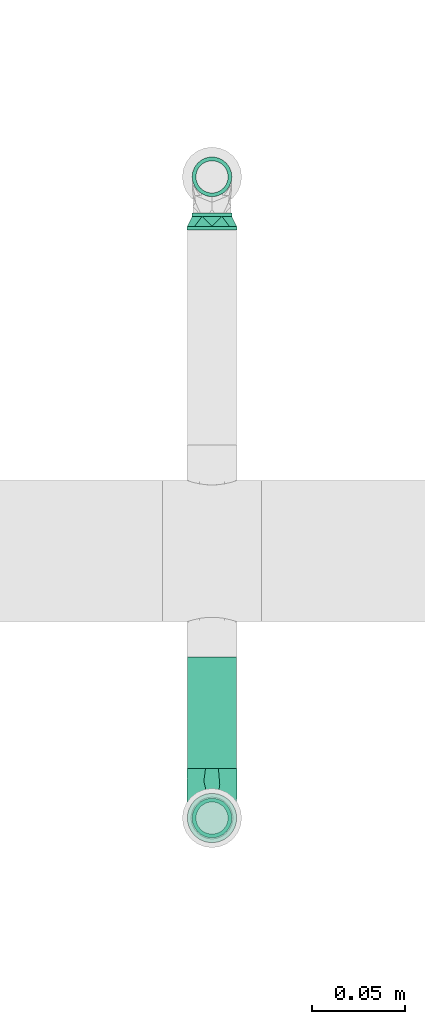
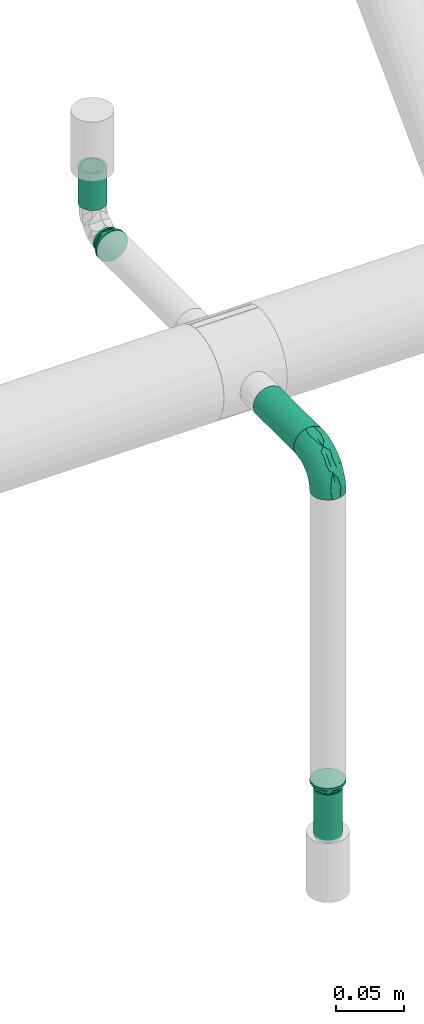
# One storey, part 26 of 51: 3 flow fittings, 3 flow segments.
"""IFC2X3 building model written with IfcOpenShell, lengths in millimetres."""

from ifc_helpers import new_model, entity, si_unit, converted_unit, derived_unit, direction, frame, origin_with_axes, origin_2d_with_axis, place, context, subcontext, project, spatial, hollow_circle, extrude, open_shell, surface_model, source, transform, mapped, type_object, element, save


model = new_model("IFC2X3")

# Units and contexts
model_context = context("Model", 3, precision=0.01, world=frame((0.0, 4.29681676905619e-09, 0.0)), true_north=direction((4.01073788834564e-13, 1.0)))
plan_context = context("Plan", 3, precision=0.01, world=frame((0.0, 4.29681676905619e-09, 0.0)), true_north=direction((4.01073788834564e-13, 1.0)))
body_context = subcontext(model_context, "Body", "Model", "MODEL_VIEW")
ifc_project = project(units=[converted_unit("PLANEANGLEUNIT", "DEGREE", entity("IfcPositiveLengthMeasure", 0.0174532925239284), si_unit("PLANEANGLEUNIT", "RADIAN"), dimensions=[0, 0, 0, 0, 0, 0, 0]), si_unit("AREAUNIT", "SQUARE_METRE"), si_unit("LENGTHUNIT", "METRE", prefix="MILLI"), si_unit("MASSUNIT", "GRAM", prefix="KILO"), si_unit("POWERUNIT", "WATT"), si_unit("PRESSUREUNIT", "PASCAL"), si_unit("FORCEUNIT", "NEWTON", prefix="KILO"), si_unit("ELECTRICVOLTAGEUNIT", "VOLT"), si_unit("ELECTRICCURRENTUNIT", "AMPERE"), si_unit("THERMODYNAMICTEMPERATUREUNIT", "DEGREE_CELSIUS"), si_unit("TIMEUNIT", "SECOND"), si_unit("VOLUMEUNIT", "CUBIC_METRE"), derived_unit("LINEARVELOCITYUNIT", [(si_unit("LENGTHUNIT", "METRE"), 1), (si_unit("TIMEUNIT", "SECOND"), -1)]), derived_unit("VOLUMETRICFLOWRATEUNIT", [(si_unit("VOLUMEUNIT", "CUBIC_METRE"), 1), (si_unit("TIMEUNIT", "SECOND"), -1)]), derived_unit("THERMALTRANSMITTANCEUNIT", [(si_unit("POWERUNIT", "WATT"), 1), (si_unit("THERMODYNAMICTEMPERATUREUNIT", "KELVIN"), -1), (si_unit("AREAUNIT", "SQUARE_METRE"), -1)]), derived_unit("SOUNDPRESSUREUNIT", [(si_unit("PRESSUREUNIT", "PASCAL"), 1)])], contexts=[model_context, plan_context])

# Site, building, storey
site_placement = place(None, frame((0.0, -4.29681676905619e-09, 0.0), z_axis=(0.0, 0.0, 1.0), x_axis=(1.0, 0.0, 0.0)))
site = spatial("IfcSite", under=ifc_project, at=site_placement, Name="ENGM", CompositionType="ELEMENT")
building_placement = place(site_placement, frame((0.0, 4.29681676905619e-09, 0.0), z_axis=(0.0, 0.0, 1.0), x_axis=(1.0, 0.0, 0.0)))
building = spatial("IfcBuilding", under=site, at=building_placement, Name="TH", CompositionType="ELEMENT")
storey_placement = place(building_placement, frame((0.0, 0.0, 210200.0), z_axis=(0.0, 0.0, 1.0), x_axis=(1.0, 0.0, 0.0)))
storey = spatial("IfcBuildingStorey", under=building, at=storey_placement, Name="Nivå F - 0,7 m", CompositionType="ELEMENT", Elevation=210200.0)

# Flow fittings
pipe_fitting_type_1 = type_object("IfcPipeFittingType", Name="magi_pipe_fe_reducer_centric_short_NOR", PredefinedType="TRANSITION")
shared_shape_1 = source(origin_with_axes(), body_context, "Body", "SurfaceModel", [
    surface_model("IfcShellBasedSurfaceModel", [(-2.0, -7.56604, -7.56604), (-2.0, -10.33541, -2.76936), (-2.0, -5.35, -9.26647), (0.0, -10.7, 0.0), (0.0, -5.35, 9.26647), (0.0, -5.35, -9.26647), (-2.0, -2.76936, 10.33541), (-2.0, 0.0, 10.7), (-2.0, -10.33541, 2.76936), (-2.0, -5.35, 9.26647), (-2.0, -7.56604, 7.56604), (-2.0, -9.26647, 5.35), (-2.0, 9.26647, 5.35), (-2.0, 5.35, 9.26647), (-2.0, 7.56604, 7.56604), (-2.0, 2.76936, 10.33541), (-2.0, 10.7, 0.0), (-2.0, 10.33541, -2.76936), (-2.0, 10.33541, 2.76936), (-2.0, -9.26647, -5.35), (-2.0, 5.35, -9.26647), (-2.0, -2.76936, -10.33541), (-2.0, 9.26647, -5.35), (-2.0, 7.56604, -7.56604), (-2.0, 2.76936, -10.33541), (-2.0, 0.0, -10.7), (-2.0, -10.7, 0.0), (0.0, -2.76936, -10.33541), (0.0, 0.0, -10.7), (0.0, -7.56604, -7.56604), (0.0, -10.33541, -2.76936), (0.0, 10.33541, -2.76936), (0.0, -9.26647, -5.35), (0.0, 9.26647, 5.35), (0.0, 2.76936, -10.33541), (0.0, 5.35, -9.26647), (0.0, 9.26647, -5.35), (0.0, 7.56604, -7.56604), (0.0, -10.33541, 2.76936), (0.0, -7.56604, 7.56604), (0.0, -9.26647, 5.35), (0.0, 0.0, 10.7), (0.0, -2.76936, 10.33541), (0.0, 10.7, 0.0), (0.0, 10.33541, 2.76936), (0.0, 5.35, 9.26647), (0.0, 2.76936, 10.33541), (0.0, 7.56604, 7.56604), (7.4, -6.7, -11.60474), (7.4, -3.46818, -12.94341), (7.4, -13.4, 0.0), (7.4, -9.47523, -9.47523), (7.4, -12.94341, -3.46818), (7.4, -11.60474, -6.7), (7.4, 12.94341, -3.46818), (7.4, 3.46818, -12.94341), (7.4, 6.7, -11.60474), (7.4, 0.0, -13.4), (7.4, 11.60474, -6.7), (7.4, 9.47523, -9.47523), (7.4, -12.94341, 3.46818), (7.4, -9.47523, 9.47523), (7.4, -11.60474, 6.7), (7.4, 0.0, 13.4), (7.4, -3.46818, 12.94341), (7.4, -6.7, 11.60474), (7.4, 6.7, 11.60474), (7.4, 11.60474, 6.7), (7.4, 9.47523, 9.47523), (7.4, 12.94341, 3.46818), (7.4, 13.4, 0.0), (7.4, 3.46818, 12.94341), (5.4, -6.7, 11.60474), (5.4, -3.46818, 12.94341), (5.4, 0.0, 13.4), (5.4, 3.46818, 12.94341), (5.4, -12.94341, 3.46818), (5.4, -11.60474, 6.7), (5.4, -9.47523, 9.47523), (5.4, 12.94341, 3.46818), (5.4, 6.7, 11.60474), (5.4, 9.47523, 9.47523), (5.4, 11.60474, 6.7), (5.4, 13.4, 0.0), (5.4, 6.7, -11.60474), (5.4, -9.47523, -9.47523), (5.4, -12.94341, -3.46818), (5.4, -11.60474, -6.7), (5.4, -6.7, -11.60474), (5.4, -3.46818, -12.94341), (5.4, 11.60474, -6.7), (5.4, 9.47523, -9.47523), (5.4, 12.94341, -3.46818), (5.4, 3.46818, -12.94341), (5.4, 0.0, -13.4), (5.4, -13.4, 0.0)], [open_shell([[[0, 1, 2]], [[3, 4, 5]], [[6, 7, 8]], [[9, 6, 10]], [[8, 11, 10]], [[6, 8, 10]], [[12, 8, 7]], [[13, 14, 15]], [[12, 15, 14]], [[16, 17, 18]], [[7, 15, 12]], [[17, 12, 18]], [[1, 8, 12]], [[1, 12, 17]], [[19, 1, 0]], [[17, 2, 1]], [[2, 20, 21]], [[22, 23, 17]], [[20, 17, 23]], [[24, 25, 20]], [[2, 17, 20]], [[20, 25, 21]], [[26, 8, 1]], [[27, 28, 5]], [[29, 5, 30]], [[30, 5, 31]], [[32, 29, 30]], [[30, 31, 33]], [[34, 35, 28]], [[35, 5, 28]], [[36, 31, 37]], [[35, 37, 31]], [[35, 31, 5]], [[38, 3, 30]], [[39, 40, 38]], [[33, 39, 30]], [[39, 41, 42]], [[4, 39, 42]], [[41, 39, 33]], [[43, 44, 31]], [[31, 44, 33]], [[45, 46, 47]], [[33, 47, 46]], [[33, 46, 41]], [[39, 38, 30]], [[16, 31, 17]], [[17, 36, 22]], [[20, 23, 35]], [[37, 23, 22]], [[24, 20, 34]], [[31, 36, 17]], [[16, 43, 31]], [[20, 35, 34]], [[35, 23, 37]], [[22, 36, 37]], [[24, 34, 28]], [[28, 25, 24]], [[25, 27, 21]], [[21, 5, 2]], [[19, 0, 32]], [[29, 0, 2]], [[1, 19, 30]], [[5, 29, 2]], [[21, 27, 5]], [[1, 30, 3]], [[30, 19, 32]], [[0, 29, 32]], [[1, 3, 26]], [[28, 27, 25]], [[26, 38, 8]], [[8, 40, 11]], [[9, 10, 4]], [[39, 10, 11]], [[6, 9, 42]], [[38, 40, 8]], [[26, 3, 38]], [[9, 4, 42]], [[4, 10, 39]], [[11, 40, 39]], [[6, 42, 41]], [[41, 7, 6]], [[7, 46, 15]], [[15, 45, 13]], [[12, 14, 33]], [[47, 14, 13]], [[18, 12, 44]], [[45, 47, 13]], [[15, 46, 45]], [[18, 44, 43]], [[44, 12, 33]], [[14, 47, 33]], [[18, 43, 16]], [[41, 46, 7]], [[4, 45, 43]], [[35, 5, 43]], [[4, 43, 5]], [[48, 49, 50]], [[51, 48, 50]], [[51, 50, 52]], [[53, 51, 52]], [[54, 50, 49]], [[55, 56, 57]], [[56, 49, 57]], [[58, 54, 59]], [[56, 59, 54]], [[56, 54, 49]], [[54, 60, 50]], [[61, 62, 60]], [[63, 61, 60]], [[63, 64, 65]], [[61, 63, 65]], [[66, 63, 60]], [[67, 68, 69]], [[69, 54, 70]], [[68, 66, 69]], [[66, 60, 69]], [[63, 66, 71]], [[60, 54, 69]], [[72, 73, 74]], [[72, 74, 75]], [[76, 77, 78]], [[75, 78, 72]], [[78, 79, 76]], [[80, 81, 75]], [[79, 75, 81]], [[82, 79, 81]], [[79, 78, 75]], [[83, 84, 79]], [[84, 76, 79]], [[85, 86, 76]], [[87, 86, 85]], [[88, 76, 84]], [[76, 88, 85]], [[89, 88, 84]], [[90, 91, 92]], [[91, 83, 92]], [[93, 94, 84]], [[91, 84, 83]], [[84, 94, 89]], [[95, 76, 86]], [[83, 54, 92]], [[92, 58, 90]], [[84, 91, 56]], [[59, 91, 90]], [[93, 84, 55]], [[54, 58, 92]], [[83, 70, 54]], [[84, 56, 55]], [[56, 91, 59]], [[90, 58, 59]], [[93, 55, 57]], [[57, 94, 93]], [[94, 49, 89]], [[89, 48, 88]], [[87, 85, 53]], [[51, 85, 88]], [[86, 87, 52]], [[48, 51, 88]], [[89, 49, 48]], [[86, 52, 50]], [[52, 87, 53]], [[85, 51, 53]], [[86, 50, 95]], [[57, 49, 94]], [[95, 60, 76]], [[76, 62, 77]], [[72, 78, 65]], [[61, 78, 77]], [[73, 72, 64]], [[60, 62, 76]], [[95, 50, 60]], [[72, 65, 64]], [[65, 78, 61]], [[77, 62, 61]], [[73, 64, 63]], [[63, 74, 73]], [[74, 71, 75]], [[75, 66, 80]], [[82, 81, 67]], [[68, 81, 80]], [[79, 82, 69]], [[66, 68, 80]], [[75, 71, 66]], [[79, 69, 70]], [[69, 82, 67]], [[81, 68, 67]], [[79, 70, 83]], [[63, 71, 74]], [[91, 81, 74]], [[74, 78, 95]], [[83, 81, 91]], [[85, 94, 91]], [[91, 95, 85]], [[74, 95, 91]], [[91, 35, 43]], [[43, 83, 91]], [[91, 94, 35]], [[85, 3, 5]], [[5, 94, 85]], [[3, 85, 95]], [[35, 94, 5]], [[78, 4, 3]], [[3, 95, 78]], [[78, 74, 4]], [[81, 43, 45]], [[45, 74, 81]], [[43, 81, 83]], [[4, 74, 45]]])]),
])
flow_fitting_1_placement = place(storey_placement, frame((903080.0, 484510.06933, 2933.0), z_axis=(0.0, 0.0, 1.0), x_axis=(0.0, -1.0, 0.0)))
element("IfcFlowFitting", 1, at=flow_fitting_1_placement, inside=storey, type_object=pipe_fitting_type_1, Name="magi_pipe_fe_reducer_centric_short_NOR", context=body_context, shape_type="MappedRepresentation", body=[
    mapped(shared_shape_1, transform((0.0, 0.0, 0.0), scale=1.0)),
])
shared_shape_2 = source(origin_with_axes(), body_context, "Body", "SurfaceModel", [
    surface_model("IfcShellBasedSurfaceModel", [(-2.0, 7.56604, 7.56604), (-2.0, 9.26647, 5.35), (-2.0, 10.33541, 2.76936), (-2.0, -2.76936, 10.33541), (-2.0, -7.56604, 7.56604), (-2.0, -5.35, 9.26647), (-2.0, -10.33541, 2.76936), (-2.0, -10.33541, -2.76936), (-2.0, -10.7, 0.0), (-2.0, 7.56604, -7.56604), (-2.0, 10.33541, -2.76936), (-2.0, 9.26647, -5.35), (-2.0, -7.56604, -7.56604), (-2.0, -9.26647, -5.35), (-2.0, -5.35, -9.26647), (-2.0, 0.0, -10.7), (-2.0, -2.76936, -10.33541), (-2.0, 2.76936, -10.33541), (-2.0, 10.7, 0.0), (0.0, 5.35, -9.26647), (0.0, 0.0, -10.7), (0.0, 2.76936, -10.33541), (0.0, 10.33541, -2.76936), (0.0, 7.56604, -7.56604), (0.0, 9.26647, -5.35), (0.0, -5.35, -9.26647), (0.0, -2.76936, -10.33541), (0.0, -7.56604, -7.56604), (0.0, -10.33541, -2.76936), (0.0, -9.26647, -5.35), (0.0, 10.33541, 2.76936), (0.0, 9.26647, 5.35), (0.0, 7.56604, 7.56604), (0.0, 2.76936, 10.33541), (0.0, 5.35, 9.26647), (0.0, -7.56604, 7.56604), (0.0, -2.76936, 10.33541), (0.0, -5.35, 9.26647), (0.0, -10.7, 0.0), (-2.0, 5.35, -9.26647), (0.0, 10.7, 0.0), (-2.0, 5.35, 9.26647), (-2.0, 2.76936, 10.33541), (0.0, 0.0, 10.7), (-2.0, 0.0, 10.7), (0.0, -9.26647, 5.35), (-2.0, -9.26647, 5.35), (0.0, -10.33541, 2.76936), (5.4, -12.94341, 3.46818), (5.4, -6.7, -11.60474), (5.4, -9.47523, -9.47523), (5.4, 9.47523, -9.47523), (5.4, 0.0, -13.4), (5.4, -9.47523, 9.47523), (5.4, 0.0, 13.4), (5.4, 9.47523, 9.47523), (7.4, 12.94341, -3.46818), (7.4, 3.46818, -12.94341), (7.4, 6.7, -11.60474), (7.4, 9.47523, -9.47523), (7.4, -6.7, -11.60474), (7.4, -12.94341, 3.46818), (7.4, 11.60474, -6.7), (7.4, 0.0, -13.4), (7.4, -3.46818, -12.94341), (7.4, -9.47523, -9.47523), (7.4, -12.94341, -3.46818), (7.4, -11.60474, -6.7), (7.4, 13.4, 0.0), (7.4, 12.94341, 3.46818), (7.4, 11.60474, 6.7), (7.4, 9.47523, 9.47523), (7.4, 0.0, 13.4), (7.4, 6.7, 11.60474), (7.4, 3.46818, 12.94341), (7.4, -6.7, 11.60474), (7.4, -9.47523, 9.47523), (7.4, -11.60474, 6.7), (7.4, -13.4, 0.0), (7.4, -3.46818, 12.94341), (5.4, 3.46818, 12.94341), (5.4, 6.7, 11.60474), (5.4, -3.46818, 12.94341), (5.4, 11.60474, 6.7), (5.4, 12.94341, 3.46818), (5.4, -6.7, 11.60474), (5.4, -11.60474, 6.7), (5.4, -12.94341, -3.46818), (5.4, -13.4, 0.0), (5.4, 12.94341, -3.46818), (5.4, 11.60474, -6.7), (5.4, 6.7, -11.60474), (5.4, 3.46818, -12.94341), (5.4, -11.60474, -6.7), (5.4, -3.46818, -12.94341), (5.4, 13.4, 0.0)], [open_shell([[[0, 1, 2]], [[3, 4, 5]], [[6, 7, 8]], [[9, 10, 11]], [[7, 12, 13]], [[12, 7, 14]], [[14, 15, 16]], [[17, 15, 14]], [[10, 2, 18]], [[19, 20, 21]], [[22, 19, 23]], [[22, 23, 24]], [[20, 25, 26]], [[20, 19, 25]], [[27, 28, 29]], [[28, 27, 25]], [[30, 31, 32]], [[33, 32, 34]], [[35, 36, 37]], [[7, 28, 8]], [[13, 29, 7]], [[25, 12, 14]], [[13, 12, 27]], [[26, 14, 16]], [[7, 29, 28]], [[28, 38, 8]], [[26, 25, 14]], [[27, 12, 25]], [[27, 29, 13]], [[20, 26, 16]], [[16, 15, 20]], [[17, 21, 15]], [[39, 19, 17]], [[24, 9, 11]], [[39, 9, 23]], [[22, 11, 10]], [[39, 23, 19]], [[19, 21, 17]], [[40, 22, 10]], [[24, 11, 22]], [[24, 23, 9]], [[18, 40, 10]], [[15, 21, 20]], [[2, 30, 18]], [[1, 31, 2]], [[34, 0, 41]], [[1, 0, 32]], [[33, 41, 42]], [[2, 31, 30]], [[30, 40, 18]], [[33, 34, 41]], [[32, 0, 34]], [[32, 31, 1]], [[43, 33, 42]], [[42, 44, 43]], [[3, 36, 44]], [[5, 37, 3]], [[45, 4, 46]], [[5, 4, 35]], [[47, 46, 6]], [[5, 35, 37]], [[37, 36, 3]], [[38, 47, 6]], [[45, 46, 47]], [[45, 35, 4]], [[8, 38, 6]], [[44, 36, 43]], [[38, 37, 25]], [[40, 37, 34]], [[40, 19, 25]], [[40, 25, 37]], [[39, 10, 9]], [[42, 7, 44]], [[41, 7, 42]], [[0, 2, 41]], [[6, 44, 7]], [[3, 44, 4]], [[4, 6, 46]], [[44, 6, 4]], [[41, 2, 7]], [[7, 2, 10]], [[10, 39, 7]], [[17, 7, 39]], [[14, 7, 17]], [[28, 19, 22]], [[43, 28, 22]], [[19, 28, 25]], [[22, 40, 30]], [[30, 32, 33]], [[43, 22, 33]], [[43, 35, 28]], [[47, 35, 45]], [[38, 28, 47]], [[47, 28, 35]], [[36, 35, 43]], [[33, 22, 30]], [[48, 49, 50]], [[51, 52, 19]], [[25, 52, 50]], [[19, 52, 25]], [[53, 54, 37]], [[34, 54, 55]], [[37, 54, 34]], [[56, 57, 58]], [[56, 58, 59]], [[60, 57, 61]], [[56, 59, 62]], [[57, 56, 61]], [[63, 60, 64]], [[63, 57, 60]], [[65, 66, 67]], [[61, 66, 65]], [[65, 60, 61]], [[56, 68, 61]], [[69, 70, 71]], [[69, 71, 72]], [[73, 74, 72]], [[73, 72, 71]], [[69, 72, 75]], [[61, 76, 77]], [[78, 66, 61]], [[61, 75, 76]], [[61, 69, 75]], [[79, 75, 72]], [[61, 68, 69]], [[54, 80, 81]], [[82, 54, 81]], [[55, 83, 84]], [[81, 55, 82]], [[84, 48, 55]], [[82, 53, 85]], [[53, 82, 48]], [[53, 48, 86]], [[82, 55, 48]], [[48, 87, 88]], [[48, 84, 49]], [[89, 51, 84]], [[51, 89, 90]], [[91, 49, 84]], [[84, 51, 91]], [[49, 91, 92]], [[87, 50, 93]], [[87, 48, 50]], [[49, 52, 94]], [[92, 52, 49]], [[95, 89, 84]], [[87, 66, 88]], [[93, 67, 87]], [[60, 50, 49]], [[93, 50, 65]], [[64, 49, 94]], [[87, 67, 66]], [[66, 78, 88]], [[64, 60, 49]], [[65, 50, 60]], [[65, 67, 93]], [[63, 64, 94]], [[94, 52, 63]], [[92, 57, 52]], [[91, 58, 92]], [[62, 51, 90]], [[91, 51, 59]], [[56, 90, 89]], [[91, 59, 58]], [[58, 57, 92]], [[68, 56, 89]], [[62, 90, 56]], [[62, 59, 51]], [[95, 68, 89]], [[52, 57, 63]], [[84, 69, 95]], [[83, 70, 84]], [[73, 55, 81]], [[83, 55, 71]], [[74, 81, 80]], [[84, 70, 69]], [[69, 68, 95]], [[74, 73, 81]], [[71, 55, 73]], [[71, 70, 83]], [[72, 74, 80]], [[80, 54, 72]], [[82, 79, 54]], [[85, 75, 82]], [[77, 53, 86]], [[85, 53, 76]], [[61, 86, 48]], [[85, 76, 75]], [[75, 79, 82]], [[78, 61, 48]], [[77, 86, 61]], [[77, 76, 53]], [[88, 78, 48]], [[54, 79, 72]], [[55, 54, 51]], [[51, 95, 55]], [[88, 54, 53]], [[88, 50, 51]], [[52, 51, 50]], [[88, 51, 54]], [[38, 25, 50]], [[50, 88, 38]], [[19, 40, 51]], [[95, 51, 40]], [[40, 34, 55]], [[55, 95, 40]], [[37, 38, 53]], [[88, 53, 38]]])]),
])
flow_fitting_2_placement = place(storey_placement, frame((903080.0, 484185.40642, 2639.92692999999), z_axis=(0.0, -1.0, 0.0), x_axis=(0.0, 0.0, 1.0)))
element("IfcFlowFitting", 2, at=flow_fitting_2_placement, inside=storey, type_object=pipe_fitting_type_1, Name="magi_pipe_fe_reducer_centric_short_NOR", context=body_context, shape_type="MappedRepresentation", body=[
    mapped(shared_shape_2, transform((0.0, 0.0, 0.0), scale=1.0)),
])
pipe_fitting_type_2 = type_object("IfcPipeFittingType", Name="magi_pipe_fe_elbow_short_001", PredefinedType="BEND")
shared_shape_3 = source(origin_with_axes(), body_context, "Body", "SurfaceModel", [
    surface_model("IfcShellBasedSurfaceModel", [(-26.8, 0.0, -13.4), (-26.8, -12.94341, -3.46818), (-26.8, 3.46818, -12.94341), (-26.8, 6.7, -11.60474), (-26.8, 9.47523, -9.47523), (-26.8, 11.60474, -6.7), (-26.8, 11.60474, 6.7), (-26.8, -9.47523, -9.47523), (-26.8, -6.7, -11.60474), (-26.8, -3.46818, -12.94341), (-26.8, -11.60474, -6.7), (-26.8, -13.4, 0.0), (-26.8, -12.94341, 3.46818), (-26.8, 12.94341, -3.46818), (-26.8, 12.94341, 3.46818), (-26.8, 3.46818, 12.94341), (-26.8, 6.7, 11.60474), (-26.8, 9.47523, 9.47523), (-26.8, -6.7, 11.60474), (-26.8, -11.60474, 6.7), (-26.8, -9.47523, 9.47523), (-26.8, -3.46818, 12.94341), (-26.8, 0.0, 13.4), (-26.8, 13.4, 0.0), (-3.46818, 26.8, -12.94341), (12.94341, 26.8, -3.46818), (0.0, 26.8, -13.4), (-9.47523, 26.8, -9.47523), (-6.7, 26.8, -11.60474), (-11.60474, 26.8, -6.7), (-11.60474, 26.8, 6.7), (6.7, 26.8, -11.60474), (9.47523, 26.8, -9.47523), (3.46818, 26.8, -12.94341), (11.60474, 26.8, -6.7), (12.94341, 26.8, 3.46818), (13.4, 26.8, 0.0), (-13.4, 26.8, 0.0), (-12.94341, 26.8, -3.46818), (-12.94341, 26.8, 3.46818), (-9.47523, 26.8, 9.47523), (-6.7, 26.8, 11.60474), (-3.46818, 26.8, 12.94341), (6.7, 26.8, 11.60474), (9.47523, 26.8, 9.47523), (11.60474, 26.8, 6.7), (3.46818, 26.8, 12.94341), (0.0, 26.8, 13.4), (-17.94383, -11.72186, 4.19396), (-19.61933, -10.40522, 7.51874), (-14.00394, -9.97131, 0.0), (-10.88146, -9.75217, 2.96415), (5.6402, 4.14256, 4.06277), (2.9355, 3.86758, 7.99817), (-0.16552, -0.70254, 6.90229), (-11.69279, -8.47867, 6.74741), (-3.60975, -5.23517, 4.12915), (-20.40197, -11.68565, 0.0), (6.07727, 10.7767, 9.16668), (7.71917, 17.5318, 9.98024), (3.23022, 10.34855, 11.14395), (-17.5318, -7.71917, 9.98024), (-19.6814, -5.06542, 12.05518), (-20.47091, -1.77513, 13.17083), (-18.76435, 2.05404, 13.37716), (-10.34855, -3.23022, 11.14395), (-13.34095, -0.12025, 12.98799), (-20.6562, 5.25542, 12.65822), (-21.01515, 11.15223, 8.78653), (-19.1981, 14.0055, 6.12639), (-23.45804, 12.58298, 5.55254), (-13.79572, 19.62699, 6.0655), (-4.65712, 13.17755, 13.37596), (-9.92557, 9.92557, 13.07441), (-7.97904, 5.85569, 13.33097), (-14.12498, 14.96497, 9.49183), (-23.18377, 8.11481, 10.91864), (-3.49778, 8.97497, 13.15743), (-6.65819, 2.45826, 12.5129), (-1.36893, 7.23965, 12.31444), (-22.3163, 13.71444, 3.37662), (-20.76788, 15.89859, 0.0), (-5.00198, 23.11411, 12.55149), (-1.83653, 20.04451, 13.36709), (5.06542, 19.6814, 12.05518), (-4.60225, -3.19632, 8.30444), (-2.39362, 2.39362, 10.95564), (1.77513, 20.47091, 13.17083), (10.40522, 19.61933, 7.51874), (8.47867, 11.69279, 6.74741), (11.72186, 17.94383, 4.19396), (-10.7767, -6.07727, 9.16668), (-14.71477, 20.20527, 3.11661), (-18.32912, 15.92283, 3.19527), (9.75217, 10.88146, 2.96415), (9.97131, 14.00394, 0.0), (11.68565, 20.40197, 0.0), (-17.32477, 17.32477, 0.0), (8.01422, 6.7, 0.0), (-11.0099, 17.80242, 10.25412), (-8.46783, 20.75346, 11.10693), (-11.06207, 21.36651, 8.74797), (-10.13559, 14.48567, 11.94159), (-5.79525, 18.15733, 12.76163), (-14.31139, 12.02432, 11.13575), (-6.7, -8.01422, 0.0), (-14.72492, 5.73985, 13.1602), (-13.14892, 3.28357, 13.39428), (-14.24576, 9.09225, 12.39421), (-7.80572, 13.90987, 12.83655), (0.12025, 13.34095, 12.98799), (-18.45241, 9.09615, 11.28418), (-1.02036, 0.84565, 9.15855), (-3.66591, -4.13183, 6.30134), (-3.02144, -4.33567, 0.0), (1.56761, -1.1228, 3.23127), (-15.89859, 20.76788, 0.0), (4.33567, 3.02144, 0.0), (0.65711, -0.65711, 0.0), (-21.21323, 1.69434, -13.35639), (-11.59215, 19.61477, -8.94181), (-19.9553, -12.05444, -4.41231), (-20.61911, 5.26132, -12.65979), (-18.29002, 15.89425, -3.37935), (-10.94714, -3.38176, -11.24231), (-11.6358, -0.16715, -12.74497), (-5.38395, -0.22423, -10.97991), (-19.45447, 8.78609, -11.20697), (-21.18665, 11.10723, -8.76769), (8.05635, 19.80434, -10.14754), (-16.16073, 12.27967, -10.10626), (-10.65974, -9.81032, -2.24682), (-4.63434, -6.26604, -3.21731), (-12.41035, 15.57424, -10.31822), (-9.54276, 16.38525, -11.6371), (-12.38435, 12.38435, -11.76567), (-1.18054, -2.52878, -5.66699), (1.17703, 2.36499, -8.51656), (4.94456, 3.94062, -5.27361), (-13.23013, 7.7548, -12.95755), (-18.92609, -10.30887, -7.4546), (-19.80434, -8.05635, -10.14754), (-5.46999, 19.49566, -12.70683), (12.05444, 19.9553, -4.41231), (-22.63124, -5.28269, -12.19553), (-11.57403, -7.91736, -7.4927), (-10.00514, -5.4662, -9.37392), (0.56412, 6.29454, -11.17498), (0.16715, 11.6358, -12.74497), (2.76952, 11.43973, -11.70622), (-22.71135, 13.83144, -2.294), (-13.13887, 21.26515, -5.84046), (-14.02683, 21.74629, -2.98452), (10.30887, 18.92609, -7.4546), (-4.73052, 4.73052, -12.6532), (-16.28385, 15.93209, -6.57302), (-1.69434, 21.21323, -13.35639), (-8.4106, 21.03687, -11.08508), (1.68957, 19.74249, -13.15499), (5.28269, 22.63124, -12.19553), (-19.74249, -1.68957, -13.15499), (-16.96978, -4.62448, -11.91765), (-3.16773, 14.76219, -13.39711), (-7.24575, 7.81916, -13.39239), (-7.92886, 12.7032, -13.00116), (-6.57993, -6.26304, -6.05124), (9.46363, 9.95483, -2.39006), (6.59847, 4.89531, -2.6225), (0.29079, -2.47661, -2.876), (-21.42347, 13.17132, -5.65321), (9.35918, 11.66841, -5.08525), (8.33374, 12.94014, -7.69724), (5.4662, 10.00514, -9.37392), (4.62448, 16.96978, -11.91765), (-3.89324, -2.60816, -8.35445), (5.97121, 7.49007, -7.29975), (-14.76219, 3.16773, -13.39711), (-15.36238, 22.06238, 0.0), (-11.66841, -9.35918, -5.08525), (3.63632, 1.19488, -3.35093), (-14.94382, 15.17624, -8.6945)], [open_shell([[[0, 1, 2]], [[3, 2, 4]], [[5, 2, 1]], [[4, 2, 5]], [[5, 1, 6]], [[7, 1, 8]], [[0, 9, 8]], [[10, 1, 7]], [[8, 1, 0]], [[11, 12, 1]], [[13, 5, 14]], [[5, 6, 14]], [[1, 15, 6]], [[15, 16, 17]], [[6, 15, 17]], [[1, 18, 15]], [[19, 20, 12]], [[18, 12, 20]], [[18, 21, 15]], [[18, 1, 12]], [[15, 21, 22]], [[14, 23, 13]], [[24, 25, 26]], [[27, 24, 28]], [[25, 24, 29]], [[29, 24, 27]], [[30, 25, 29]], [[31, 25, 32]], [[31, 33, 26]], [[32, 25, 34]], [[26, 25, 31]], [[25, 35, 36]], [[37, 29, 38]], [[39, 30, 29]], [[30, 40, 25]], [[40, 41, 42]], [[42, 25, 40]], [[43, 25, 42]], [[35, 44, 45]], [[44, 35, 43]], [[42, 46, 43]], [[35, 25, 43]], [[47, 46, 42]], [[39, 29, 37]], [[48, 49, 19]], [[48, 50, 51]], [[52, 53, 54]], [[55, 51, 56]], [[49, 20, 19]], [[57, 48, 12]], [[58, 59, 60]], [[61, 18, 20]], [[61, 62, 18]], [[22, 63, 64]], [[62, 65, 66]], [[59, 44, 43]], [[22, 21, 63]], [[67, 16, 15]], [[68, 69, 70]], [[30, 39, 71]], [[72, 73, 74]], [[69, 68, 75]], [[22, 64, 15]], [[16, 76, 17]], [[6, 17, 68]], [[77, 78, 79]], [[80, 81, 23]], [[42, 82, 83]], [[43, 84, 59]], [[85, 86, 65]], [[46, 47, 87]], [[88, 89, 90]], [[91, 65, 61]], [[47, 42, 83]], [[71, 92, 93]], [[90, 94, 95]], [[84, 43, 46]], [[88, 90, 45]], [[59, 84, 60]], [[35, 45, 90]], [[75, 71, 69]], [[18, 62, 21]], [[90, 96, 35]], [[97, 81, 93]], [[94, 98, 95]], [[92, 97, 93]], [[50, 48, 57]], [[70, 14, 6]], [[99, 100, 101]], [[40, 101, 100]], [[41, 40, 100]], [[102, 103, 100]], [[103, 72, 83]], [[82, 100, 103]], [[82, 42, 41]], [[99, 104, 102]], [[23, 14, 80]], [[67, 15, 64]], [[51, 50, 105]], [[48, 19, 12]], [[49, 55, 61]], [[45, 44, 88]], [[89, 52, 94]], [[106, 107, 74]], [[108, 67, 106]], [[40, 30, 101]], [[103, 102, 109]], [[103, 109, 72]], [[87, 83, 110]], [[76, 68, 17]], [[68, 111, 104]], [[65, 62, 61]], [[63, 62, 66]], [[91, 61, 55]], [[65, 86, 78]], [[87, 84, 46]], [[110, 79, 60]], [[110, 60, 84]], [[86, 112, 60]], [[55, 49, 48]], [[61, 20, 49]], [[44, 59, 88]], [[89, 88, 59]], [[106, 67, 64]], [[76, 67, 111]], [[53, 52, 89]], [[112, 86, 85]], [[56, 113, 55]], [[112, 54, 53]], [[58, 89, 59]], [[56, 51, 105]], [[114, 115, 56]], [[14, 70, 80]], [[69, 71, 93]], [[37, 116, 92]], [[92, 116, 97]], [[30, 71, 101]], [[75, 101, 71]], [[99, 102, 100]], [[108, 104, 111]], [[106, 74, 73]], [[110, 83, 72]], [[78, 74, 66]], [[72, 74, 77]], [[83, 87, 47]], [[84, 87, 110]], [[62, 63, 21]], [[64, 63, 66]], [[12, 11, 57]], [[96, 90, 95]], [[96, 36, 35]], [[115, 117, 52]], [[56, 105, 114]], [[55, 48, 51]], [[89, 94, 90]], [[52, 98, 94]], [[106, 64, 107]], [[108, 106, 73]], [[102, 108, 73]], [[67, 108, 111]], [[102, 104, 108]], [[68, 104, 75]], [[64, 66, 107]], [[66, 74, 107]], [[65, 78, 66]], [[79, 78, 86]], [[60, 79, 86]], [[77, 79, 110]], [[72, 77, 110]], [[78, 77, 74]], [[67, 76, 16]], [[68, 76, 111]], [[100, 82, 41]], [[83, 82, 103]], [[68, 70, 6]], [[80, 69, 93]], [[69, 80, 70]], [[80, 93, 81]], [[55, 85, 91]], [[85, 65, 91]], [[60, 53, 58]], [[53, 89, 58]], [[54, 112, 85]], [[60, 112, 53]], [[85, 113, 54]], [[113, 115, 54]], [[55, 113, 85]], [[115, 113, 56]], [[71, 39, 92]], [[115, 114, 118]], [[37, 92, 39]], [[101, 75, 99]], [[99, 75, 104]], [[102, 73, 109]], [[72, 109, 73]], [[54, 115, 52]], [[117, 115, 118]], [[117, 98, 52]], [[2, 119, 0]], [[29, 27, 120]], [[121, 57, 1]], [[3, 122, 2]], [[97, 123, 81]], [[124, 125, 126]], [[127, 4, 128]], [[32, 129, 31]], [[127, 128, 130]], [[131, 132, 105]], [[133, 134, 135]], [[127, 3, 4]], [[136, 137, 138]], [[139, 122, 127]], [[4, 5, 128]], [[10, 140, 121]], [[141, 140, 7]], [[24, 142, 28]], [[95, 143, 96]], [[144, 8, 9]], [[145, 141, 146]], [[25, 36, 96]], [[147, 148, 149]], [[140, 10, 7]], [[23, 81, 150]], [[130, 133, 135]], [[151, 152, 38]], [[153, 34, 143]], [[147, 154, 148]], [[38, 29, 151]], [[120, 155, 151]], [[32, 153, 129]], [[26, 156, 24]], [[24, 156, 142]], [[143, 34, 25]], [[27, 28, 157]], [[123, 152, 155]], [[158, 33, 159]], [[144, 160, 161]], [[122, 3, 127]], [[148, 162, 158]], [[157, 28, 142]], [[162, 163, 164]], [[159, 33, 31]], [[165, 136, 132]], [[34, 153, 32]], [[166, 98, 167]], [[160, 9, 0]], [[161, 160, 125]], [[95, 166, 143]], [[50, 131, 105]], [[121, 1, 10]], [[168, 114, 132]], [[150, 169, 13]], [[167, 98, 117]], [[33, 158, 26]], [[164, 142, 162]], [[133, 157, 134]], [[7, 8, 141]], [[165, 145, 146]], [[170, 171, 153]], [[129, 172, 173]], [[126, 137, 174]], [[175, 137, 172]], [[148, 158, 173]], [[156, 158, 162]], [[149, 172, 147]], [[148, 154, 163]], [[119, 160, 0]], [[176, 163, 125]], [[176, 125, 160]], [[125, 154, 126]], [[169, 128, 5]], [[127, 130, 135]], [[139, 127, 135]], [[119, 122, 176]], [[120, 151, 29]], [[152, 97, 177]], [[142, 164, 134]], [[120, 27, 157]], [[152, 37, 38]], [[81, 123, 150]], [[123, 155, 169]], [[152, 123, 97]], [[140, 178, 121]], [[121, 178, 131]], [[144, 141, 8]], [[146, 141, 161]], [[25, 96, 143]], [[170, 153, 143]], [[129, 153, 171]], [[159, 129, 173]], [[137, 147, 172]], [[126, 154, 147]], [[172, 171, 175]], [[174, 137, 136]], [[137, 126, 147]], [[126, 146, 124]], [[117, 118, 179]], [[179, 138, 167]], [[128, 169, 155]], [[5, 13, 169]], [[57, 121, 50]], [[57, 11, 1]], [[122, 119, 2]], [[160, 119, 176]], [[158, 156, 26]], [[142, 156, 162]], [[162, 148, 163]], [[139, 135, 164]], [[125, 163, 154]], [[139, 163, 176]], [[163, 139, 164]], [[122, 139, 176]], [[155, 180, 128]], [[180, 120, 133]], [[180, 133, 130]], [[157, 133, 120]], [[142, 134, 157]], [[164, 135, 134]], [[128, 180, 130]], [[120, 180, 155]], [[152, 151, 155]], [[37, 152, 177]], [[169, 150, 123]], [[23, 150, 13]], [[121, 131, 50]], [[178, 165, 132]], [[178, 132, 131]], [[168, 132, 136]], [[145, 165, 178]], [[174, 165, 146]], [[178, 140, 145]], [[141, 145, 140]], [[179, 136, 138]], [[170, 166, 167]], [[168, 179, 118]], [[170, 167, 138]], [[143, 166, 170]], [[95, 98, 166]], [[117, 179, 167]], [[136, 179, 168]], [[129, 159, 31]], [[158, 159, 173]], [[160, 144, 9]], [[141, 144, 161]], [[175, 170, 138]], [[129, 171, 172]], [[170, 175, 171]], [[137, 175, 138]], [[148, 173, 149]], [[172, 149, 173]], [[165, 174, 136]], [[126, 174, 146]], [[146, 161, 124]], [[125, 124, 161]], [[114, 168, 118]], [[114, 105, 132]]])]),
])
flow_fitting_3_placement = place(storey_placement, frame((903080.0, 484185.40642, 2933.0), z_axis=(1.0, 0.0, 0.0), x_axis=(0.0, -1.0, 0.0)))
element("IfcFlowFitting", 3, at=flow_fitting_3_placement, inside=storey, type_object=pipe_fitting_type_2, Name="magi_pipe_fe_elbow_short_001", context=body_context, shape_type="MappedRepresentation", body=[
    mapped(shared_shape_3, transform((0.0, 0.0, 0.0), scale=1.0)),
])

# Flow segments
pipe_segment_type = type_object("IfcPipeSegmentType", Name="Stålrør normaltykke", PredefinedType="RIGIDSEGMENT")
shared_shape_4 = source(origin_with_axes(), body_context, "Body", "SweptSolid", [
    extrude(hollow_circle(Radius=10.7, WallThickness=2.0, at=origin_2d_with_axis()), frame((0.0, 0.0, 0.0), z_axis=(1.0, 0.0, 0.0), x_axis=(0.0, 1.0, 0.0)), (0.0, 0.0, 1.0), 43.0),
])
flow_segment_1_placement = place(storey_placement, frame((903080.0, 484185.40642, 2596.95199999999), z_axis=(0.0, -1.0, 0.0), x_axis=(0.0, 0.0, 1.0)))
element("IfcFlowSegment", 4, at=flow_segment_1_placement, inside=storey, type_object=pipe_segment_type, Name="Stålrør normaltykke", context=body_context, shape_type="MappedRepresentation", body=[
    mapped(shared_shape_4, transform((0.0, 0.0, 0.0), scale=1.0)),
])
shared_shape_5 = source(origin_with_axes(), body_context, "Body", "SweptSolid", [
    extrude(hollow_circle(Radius=13.3, WallThickness=2.0, at=origin_2d_with_axis()), frame((0.0, 0.0, 0.0), z_axis=(1.0, 0.0, 0.0), x_axis=(0.0, 1.0, 0.0)), (0.0, 0.0, 1.0), 60.1),
])
flow_segment_2_placement = place(storey_placement, frame((903080.0, 484272.30519, 2933.0), z_axis=(0.0, 0.0, 1.0), x_axis=(0.0, -1.0, 0.0)))
element("IfcFlowSegment", 5, at=flow_segment_2_placement, inside=storey, type_object=pipe_segment_type, Name="Stålrør normaltykke", context=body_context, shape_type="MappedRepresentation", body=[
    mapped(shared_shape_5, transform((0.0, 0.0, 0.0), scale=1.0)),
])
shared_shape_6 = source(origin_with_axes(), body_context, "Body", "SweptSolid", [
    extrude(hollow_circle(Radius=10.7, WallThickness=2.0, at=origin_2d_with_axis()), frame((0.0, 0.0, 0.0), z_axis=(1.0, 0.0, 0.0), x_axis=(0.0, 1.0, 0.0)), (0.0, 0.0, 1.0), 33.1),
])
flow_segment_3_placement = place(storey_placement, frame((903080.0, 484531.46933, 2987.54800000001), z_axis=(0.0, 1.0, 0.0), x_axis=(0.0, 0.0, -1.0)))
element("IfcFlowSegment", 6, at=flow_segment_3_placement, inside=storey, type_object=pipe_segment_type, Name="Stålrør normaltykke", context=body_context, shape_type="MappedRepresentation", body=[
    mapped(shared_shape_6, transform((0.0, 0.0, 0.0), scale=1.0)),
])

save(model, "model.ifc")
